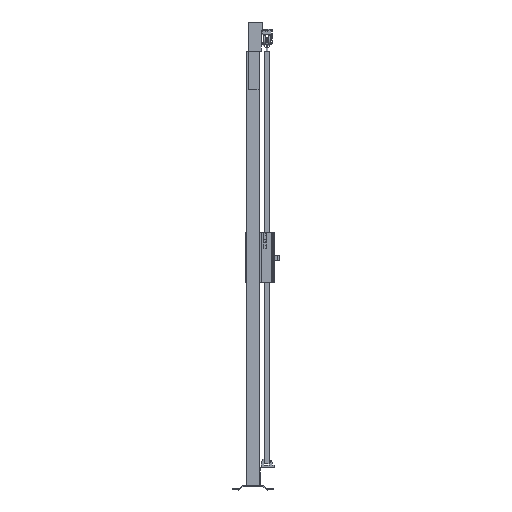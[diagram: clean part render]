
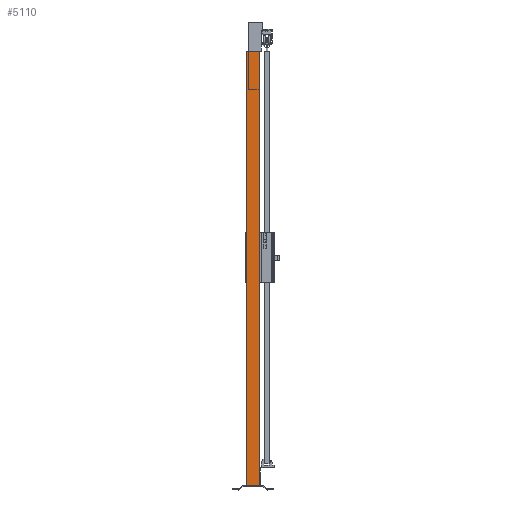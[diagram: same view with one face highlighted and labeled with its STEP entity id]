
A CAD part, left-side view. The second image highlights one B-rep face of the part: STEP entity #5110.
In plain terms, the highlighted planar face has unit normal (-1, 0, 0).
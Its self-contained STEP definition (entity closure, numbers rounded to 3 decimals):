
#567=FACE_OUTER_BOUND('',#922,.T.);
#922=EDGE_LOOP('',(#3253,#3254,#3255,#3256));
#1349=VERTEX_POINT('',#10667);
#1351=VERTEX_POINT('',#10670);
#1354=VERTEX_POINT('',#10677);
#1356=VERTEX_POINT('',#10681);
#2098=EDGE_CURVE('',#1351,#1349,#5958,.T.);
#2104=EDGE_CURVE('',#1354,#1356,#5964,.T.);
#2105=EDGE_CURVE('',#1351,#1356,#5965,.T.);
#2106=EDGE_CURVE('',#1349,#1354,#5966,.T.);
#3253=ORIENTED_EDGE('',*,*,#2105,.F.);
#3254=ORIENTED_EDGE('',*,*,#2098,.T.);
#3255=ORIENTED_EDGE('',*,*,#2106,.T.);
#3256=ORIENTED_EDGE('',*,*,#2104,.T.);
#4785=PLANE('',#7628);
#5110=ADVANCED_FACE('',(#567),#4785,.T.);
#5958=LINE('',#10671,#6862);
#5964=LINE('',#10683,#6868);
#5965=LINE('',#10685,#6869);
#5966=LINE('',#10686,#6870);
#6862=VECTOR('',#8503,1.);
#6868=VECTOR('',#8511,1.);
#6869=VECTOR('',#8514,1.);
#6870=VECTOR('',#8515,1.);
#7628=AXIS2_PLACEMENT_3D('',#10684,#8512,#8513);
#8503=DIRECTION('',(0.,1.,0.));
#8511=DIRECTION('',(0.,-1.,0.));
#8512=DIRECTION('center_axis',(-1.,0.,0.));
#8513=DIRECTION('ref_axis',(0.,0.,
1.));
#8514=DIRECTION('',(0.,0.,-1.));
#8515=DIRECTION('',(0.,0.,-1.));
#10667=CARTESIAN_POINT('',(1627.949,1845.271,2020.));
#10670=CARTESIAN_POINT('',(1627.949,1785.271,2020.));
#10671=CARTESIAN_POINT('',(1627.949,1815.271,2020.));
#10677=CARTESIAN_POINT('',(1627.949,1845.271,20.));
#10681=CARTESIAN_POINT('',(1627.949,1785.271,20.));
#10683=CARTESIAN_POINT('',(1627.949,1815.271,20.));
#10684=CARTESIAN_POINT('Origin',(1627.949,1815.271,1020.));
#10685=CARTESIAN_POINT('',(1627.949,1785.271,1020.));
#10686=CARTESIAN_POINT('',(1627.949,1845.271,1020.));
